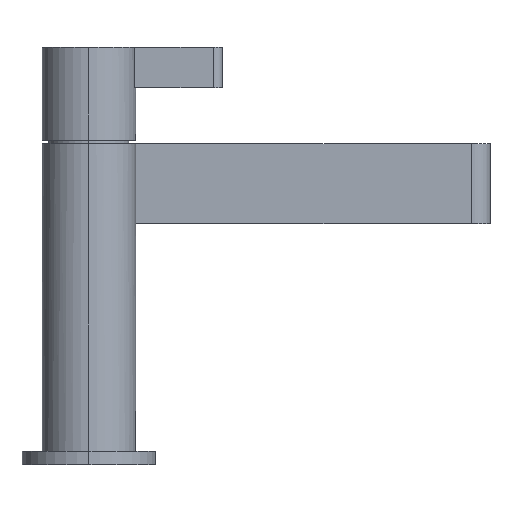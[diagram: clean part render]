
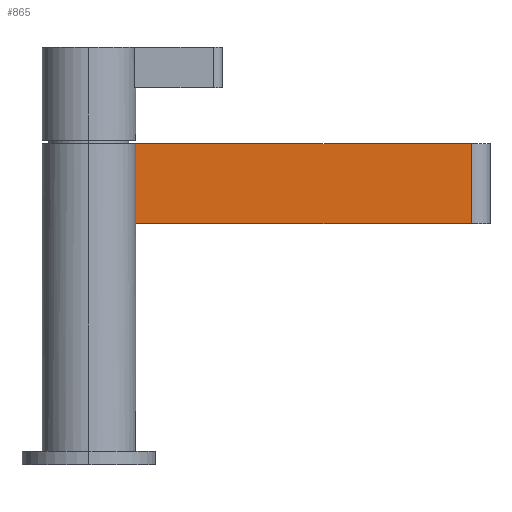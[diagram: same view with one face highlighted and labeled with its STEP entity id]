
A CAD part, left-side view. The second image highlights one B-rep face of the part: STEP entity #865.
In plain terms, the highlighted planar face has unit normal (-1, 0, 0).
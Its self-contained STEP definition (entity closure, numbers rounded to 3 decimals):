
#435 = VERTEX_POINT('',#436);
#436 = CARTESIAN_POINT('',(-7.,-13.,
    120.));
#443 = EDGE_CURVE('',#435,#444,#446,.T.);
#444 = VERTEX_POINT('',#445);
#445 = CARTESIAN_POINT('',(-7.,-143.,120.));
#446 = LINE('',#447,#448);
#447 = CARTESIAN_POINT('',(-7.,-13.,
    120.));
#448 = VECTOR('',#449,1.);
#449 = DIRECTION('',(0.,-1.,0.));
#844 = EDGE_CURVE('',#435,#845,#847,.T.);
#845 = VERTEX_POINT('',#846);
#846 = CARTESIAN_POINT('',(-7.,-13.,
    90.));
#847 = LINE('',#848,#849);
#848 = CARTESIAN_POINT('',(-7.,-13.,
    120.));
#849 = VECTOR('',#850,1.);
#850 = DIRECTION('',(0.,0.,-1.));
#865 = ADVANCED_FACE('',(#866),#884,.T.);
#866 = FACE_BOUND('',#867,.T.);
#867 = EDGE_LOOP('',(#868,#869,#870,#878));
#868 = ORIENTED_EDGE('',*,*,#443,.F.);
#869 = ORIENTED_EDGE('',*,*,#844,.T.);
#870 = ORIENTED_EDGE('',*,*,#871,.F.);
#871 = EDGE_CURVE('',#872,#845,#874,.T.);
#872 = VERTEX_POINT('',#873);
#873 = CARTESIAN_POINT('',(-7.,-143.,90.));
#874 = LINE('',#875,#876);
#875 = CARTESIAN_POINT('',(-7.,-143.,90.));
#876 = VECTOR('',#877,1.);
#877 = DIRECTION('',(0.,1.,0.));
#878 = ORIENTED_EDGE('',*,*,#879,.T.);
#879 = EDGE_CURVE('',#872,#444,#880,.T.);
#880 = LINE('',#881,#882);
#881 = CARTESIAN_POINT('',(-7.,-143.,120.));
#882 = VECTOR('',#883,1.);
#883 = DIRECTION('',(0.,0.,1.));
#884 = PLANE('',#885);
#885 = AXIS2_PLACEMENT_3D('',#886,#887,#888);
#886 = CARTESIAN_POINT('',(-7.,-13.,
    120.));
#887 = DIRECTION('',(-1.,0.,0.));
#888 = DIRECTION('',(-0.,0.,-1.));
